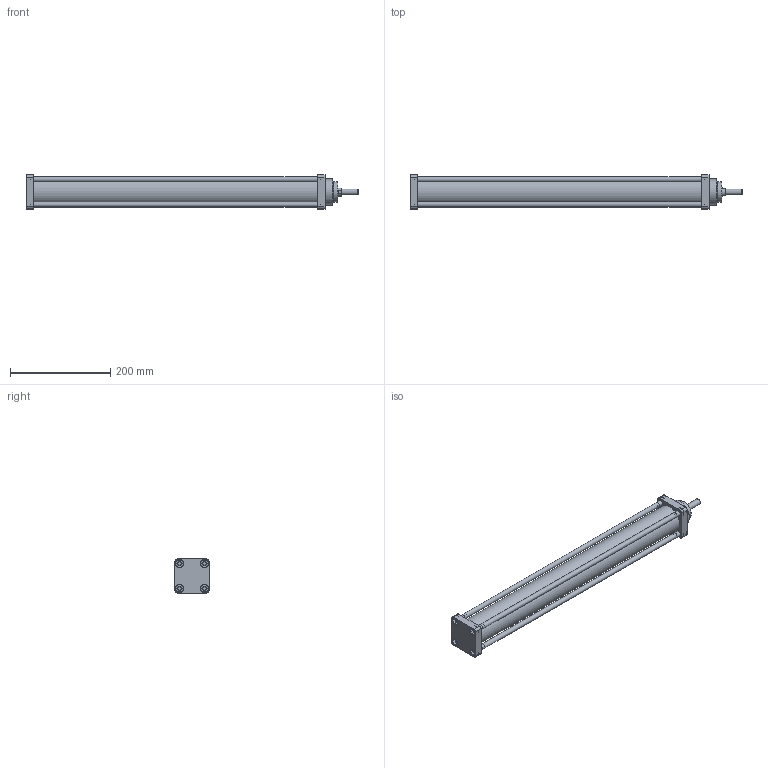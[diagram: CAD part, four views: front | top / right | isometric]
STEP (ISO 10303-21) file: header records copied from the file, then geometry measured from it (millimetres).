
FILE_DESCRIPTION(/* description */ (''),/* implementation_level */ '2;1');
FILE_NAME(/* name */ 'C:/Users/DLL/YandexDisk/Traceparts/Pnömatikler/SelfPublishingProductsCatalogBasicTemplate_KINETICTR.xlsm/TLSK_2K_50_1000.step',/* time_stamp */ '2022-10-02T18:18:31+03:00',/* author */ (''),/* organization */ (''),/* preprocessor_version */ 'ST-DEVELOPER v19',/* originating_system */ 'Autodesk Translation Framework v11.7.0.108',/* authorisation */ '');
FILE_SCHEMA (('AUTOMOTIVE_DESIGN { 1 0 10303 214 3 1 1 }'));
Length unit declared in the file: millimetre
Products named in the file (25): TLSK_2K_50_1000_WEB; 50_ARKA_KAPAK_yuv_boru; Component2; 50_ON_KAPAK_yuv_boru; pap_40_12; KASTAS-K103-040; 16_PAP_YUZUK; K52_16_BOGAZKECESI; KO-50X1; CIVATA; Ø50XØ55_1000_AL_BORU_WEB; Component1; SAPLAMA_Ø10_WEB; Component1_1; SAPLAMA_Ø10_WEB v1(Mirror); Component1(Mirror); SAPLAMA_Ø10_WEB v1(Mirror) (1); Component1(Mirror) (1); SAPLAMA_Ø10_WEB v1(Mirror)(Mirror); Component1(Mirror)(Mirror); Ø16_1000_KROM_MİL_WEB; Component1_2; 50_1000_26boru_kapak_WEB; Ø40XØ35_1000_BORU_WEB; Component1_3
Assembly tree (31 placements, depth 3):
  TLSK_2K_50_1000_WEB
    50_ARKA_KAPAK_yuv_boru
      Component2
    50_ON_KAPAK_yuv_boru
      pap_40_12
      KASTAS-K103-040
    16_PAP_YUZUK
    K52_16_BOGAZKECESI
    KO-50X1
    CIVATA  x8
    Ø50XØ55_1000_AL_BORU_WEB
      Component1
    SAPLAMA_Ø10_WEB
      Component1_1
    SAPLAMA_Ø10_WEB v1(Mirror)
      Component1(Mirror)
    SAPLAMA_Ø10_WEB v1(Mirror) (1)
      Component1(Mirror) (1)
    SAPLAMA_Ø10_WEB v1(Mirror)(Mirror)
      Component1(Mirror)(Mirror)
    Ø16_1000_KROM_MİL_WEB
      Component1_2
    50_1000_26boru_kapak_WEB
    Ø40XØ35_1000_BORU_WEB
      Component1_3
Bounding box: 663 x 68 x 68 mm (x, y, z)
Volume: 584367 mm3; surface area: 356128.7 mm2
Topology: 24 solids, 24 shells, 853 faces, 2208 edges, 1456 vertices
Faces by surface type: plane 321, bspline 316, cylinder 126, cone 77, torus 13
Full cylindrical faces by diameter (mm): 3 x4, 4 x2, 6.779 x8, 6.8 x8, 7.866 x1, 8 x8, 8.526 x4, 8.707 x2, 10 x4, 10.45 x1, 10.5 x4, 11.834 x1, 12 x8, 16 x2, 16.442 x1, 16.6 x1, 16.75 x1, 17 x8, 17.5 x8, 17.7 x1, 18 x2, 20.5 x1, 20.75 x1, 20.942 x1, 25.7 x1, 30 x1, 32 x1, 35 x1, 35.035 x1, 35.884 x1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
Entity records: 36068 total; most frequent: CARTESIAN_POINT 19325, ORIENTED_EDGE 3812, DIRECTION 2491, EDGE_CURVE 1906, VERTEX_POINT 1267, AXIS2_PLACEMENT_3D 853, EDGE_LOOP 849, LINE 785
